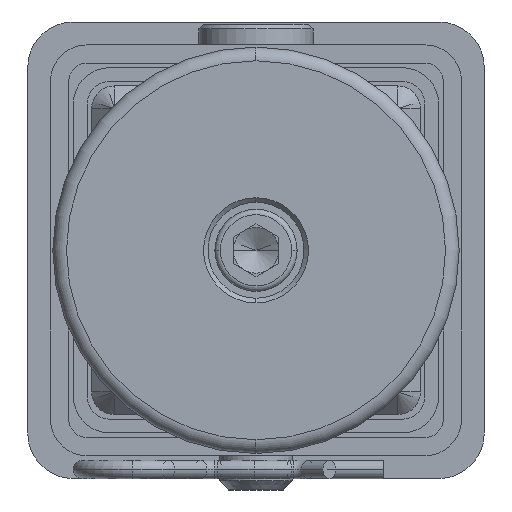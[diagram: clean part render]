
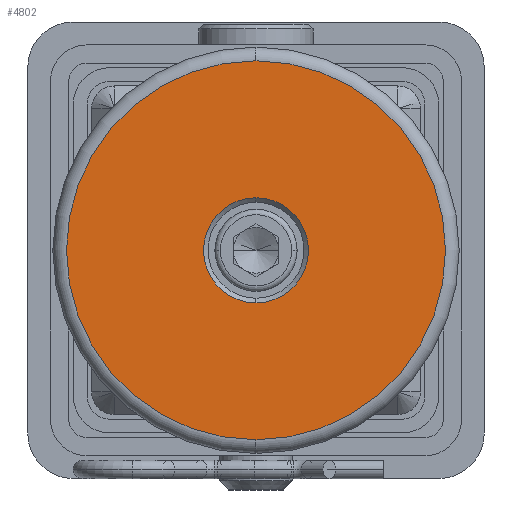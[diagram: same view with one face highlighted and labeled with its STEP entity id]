
A CAD part, front view. The second image highlights one B-rep face of the part: STEP entity #4802.
In plain terms, the highlighted planar face has unit normal (0, -1, 0).
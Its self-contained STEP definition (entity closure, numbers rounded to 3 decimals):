
#13 = DIRECTION ( 'NONE',  ( 0., 0., -1. ) ) ;
#100 = CIRCLE ( 'NONE', #6081, 11.5 ) ;
#371 = CIRCLE ( 'NONE', #9280, 11.5 ) ;
#529 = CARTESIAN_POINT ( 'NONE',  ( 0., -27.2, -11.5 ) ) ;
#548 = DIRECTION ( 'NONE',  ( 0., 0., -1. ) ) ;
#746 = FACE_BOUND ( 'NONE', #5588, .T. ) ;
#800 = DIRECTION ( 'NONE',  ( 0., 0., -1. ) ) ;
#1207 = CARTESIAN_POINT ( 'NONE',  ( 0., -27.2, 0. ) ) ;
#1361 = DIRECTION ( 'NONE',  ( 0., 0., -1. ) ) ;
#1408 = DIRECTION ( 'NONE',  ( 0., -1., 0. ) ) ;
#2087 = VERTEX_POINT ( 'NONE', #529 ) ;
#2298 = CARTESIAN_POINT ( 'NONE',  ( 0., -27.2, 41.5 ) ) ;
#2637 = VERTEX_POINT ( 'NONE', #10242 ) ;
#3514 = DIRECTION ( 'NONE',  ( 0., 1., 0. ) ) ;
#3617 = ORIENTED_EDGE ( 'NONE', *, *, #9107, .T. ) ;
#4009 = CARTESIAN_POINT ( 'NONE',  ( 44.5, -27.2, 0. ) ) ;
#4077 = CIRCLE ( 'NONE', #10043, 41.5 ) ;
#4613 = PLANE ( 'NONE',  #5114 ) ;
#4767 = CARTESIAN_POINT ( 'NONE',  ( 0., -27.2, 0. ) ) ;
#4802 = ADVANCED_FACE ( 'NONE', ( #746, #7121 ), #4613, .T. ) ;
#5114 = AXIS2_PLACEMENT_3D ( 'NONE', #4009, #1408, #1361 ) ;
#5247 = ORIENTED_EDGE ( 'NONE', *, *, #5411, .T. ) ;
#5404 = DIRECTION ( 'NONE',  ( 0., -1., 0. ) ) ;
#5411 = EDGE_CURVE ( 'NONE', #2087, #9622, #371, .T. ) ;
#5588 = EDGE_LOOP ( 'NONE', ( #5247, #5726 ) ) ;
#5726 = ORIENTED_EDGE ( 'NONE', *, *, #10336, .T. ) ;
#5767 = DIRECTION ( 'NONE',  ( 0., -1., 0. ) ) ;
#5906 = EDGE_CURVE ( 'NONE', #6880, #2637, #4077, .T. ) ;
#6062 = CIRCLE ( 'NONE', #7272, 41.5 ) ;
#6081 = AXIS2_PLACEMENT_3D ( 'NONE', #7301, #8209, #13 ) ;
#6135 = DIRECTION ( 'NONE',  ( 0., 0., -1. ) ) ;
#6880 = VERTEX_POINT ( 'NONE', #2298 ) ;
#7069 = CARTESIAN_POINT ( 'NONE',  ( 0., -27.2, 0. ) ) ;
#7121 = FACE_OUTER_BOUND ( 'NONE', #9867, .T. ) ;
#7272 = AXIS2_PLACEMENT_3D ( 'NONE', #7069, #5404, #548 ) ;
#7301 = CARTESIAN_POINT ( 'NONE',  ( 0., -27.2, 0. ) ) ;
#7929 = ORIENTED_EDGE ( 'NONE', *, *, #5906, .T. ) ;
#7937 = CARTESIAN_POINT ( 'NONE',  ( 0., -27.2, 11.5 ) ) ;
#8209 = DIRECTION ( 'NONE',  ( 0., 1., 0. ) ) ;
#9107 = EDGE_CURVE ( 'NONE', #2637, #6880, #6062, .T. ) ;
#9280 = AXIS2_PLACEMENT_3D ( 'NONE', #1207, #3514, #6135 ) ;
#9622 = VERTEX_POINT ( 'NONE', #7937 ) ;
#9867 = EDGE_LOOP ( 'NONE', ( #3617, #7929 ) ) ;
#10043 = AXIS2_PLACEMENT_3D ( 'NONE', #4767, #5767, #800 ) ;
#10242 = CARTESIAN_POINT ( 'NONE',  ( 0., -27.2, -41.5 ) ) ;
#10336 = EDGE_CURVE ( 'NONE', #9622, #2087, #100, .T. ) ;
